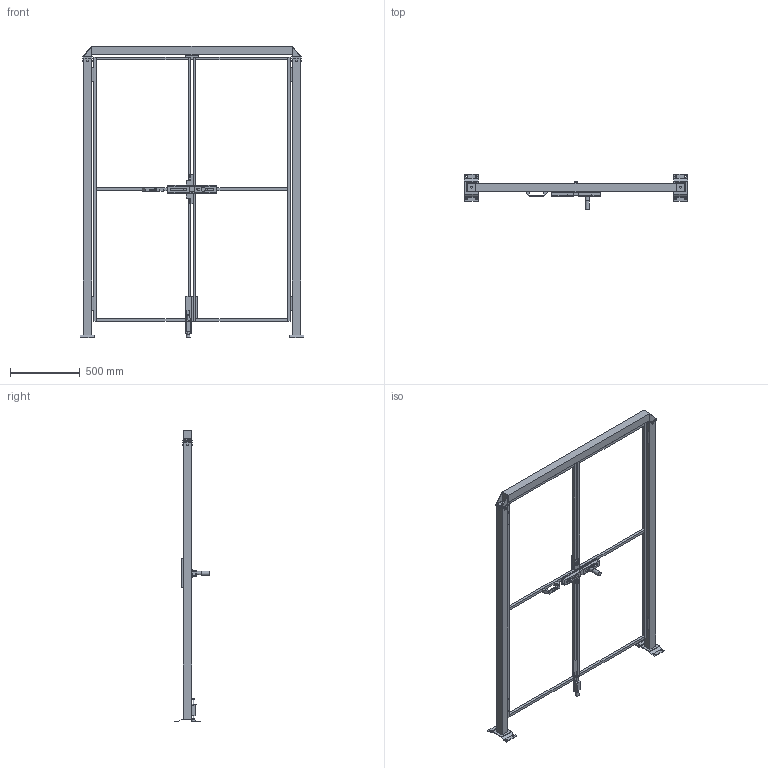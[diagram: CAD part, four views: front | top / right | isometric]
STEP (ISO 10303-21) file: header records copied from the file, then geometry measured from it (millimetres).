
FILE_DESCRIPTION(/* description */ (''),/* implementation_level */ '2;1');
FILE_NAME(/* name */ 'C:\SafeGuarding\ELABORATI\VZOR§DVOUKŘÍDLÉ_2025-02-03-10-18-26.stp',/* time_stamp */ '2025-02-03T10:18:28+01:00',/* author */ ('admin'),/* organization */ (''),/* preprocessor_version */ 'ST-DEVELOPER v18.1',/* originating_system */ 'AutoCAD Mechanical',/* authorisation */ '');
FILE_SCHEMA (('AUTOMOTIVE_DESIGN { 1 0 10303 214 3 1 1 }'));
Length unit declared in the file: millimetre
Products named in the file (5): Product; *U4; DATI_PORTA; P_VFMA.ME60SDU.2020; R_VFPA.REPE20.07001900
Assembly tree (6 placements, depth 2):
  Product
    R_VFPA.REPE20.07001900  x2
    P_VFMA.ME60SDU.2020  x2
    *U4
    DATI_PORTA
Bounding box: 1605 x 255.8 x 2100.5 mm (x, y, z)
Volume: 32790928.3 mm3; surface area: 3398140.2 mm2
Topology: 39 solids, 50 shells, 496 faces, 1518 edges, 1376 vertices
Faces by surface type: plane 448, cylinder 46, cone 2
Full cylindrical faces by diameter (mm): 11 x29, 12 x1, 14 x2, 24 x1, 30 x1
Entity records: 14100 total; most frequent: CARTESIAN_POINT 2864, DIRECTION 2147, ORIENTED_EDGE 2112, EDGE_CURVE 1105, LINE 1009, VECTOR 1009, VERTEX_POINT 773, AXIS2_PLACEMENT_3D 569
